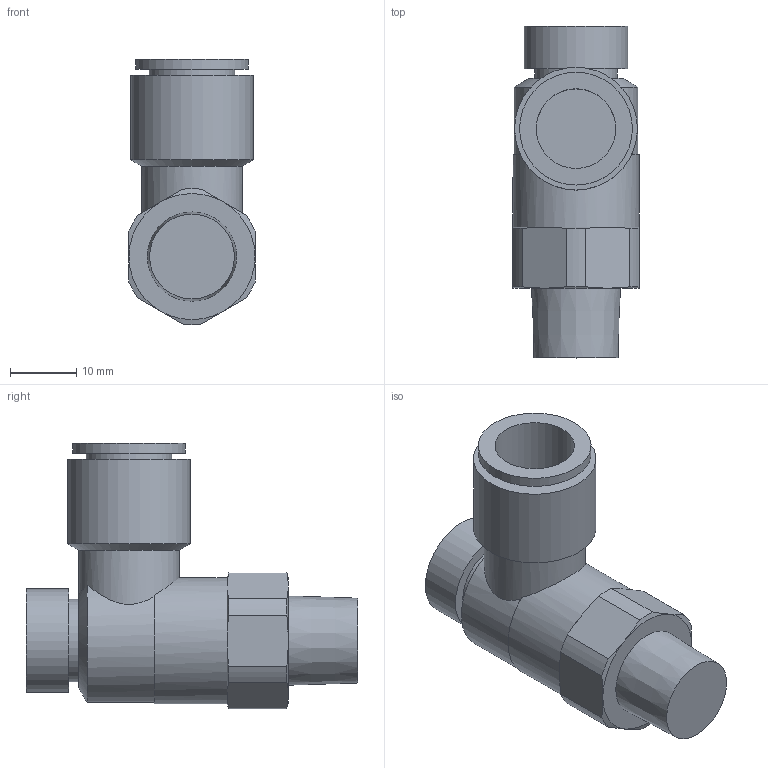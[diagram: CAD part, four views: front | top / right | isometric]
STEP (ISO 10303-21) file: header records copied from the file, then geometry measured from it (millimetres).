
FILE_DESCRIPTION(/* description */ ('STEP AP214'),/* implementation_level */ '2;1');
FILE_NAME(/* name */ 'AS3201F-02-12SA',/* time_stamp */ '2024-10-24T14:10:21+02:00',/* author */ ('License CC BY-ND 4.0'),/* organization */ ('CADENAS'),/* preprocessor_version */ 'ST-DEVELOPER v19.3',/* originating_system */ 'PARTsolutions',/* authorisation */ ' ');
FILE_SCHEMA (('AUTOMOTIVE_DESIGN {1 0 10303 214 3 1 1}'));
Length unit declared in the file: millimetre
Products named in the file (1): AS3201F-02-12SA
Bounding box: 19 x 50 x 39.94 mm (x, y, z)
Volume: 14912.3 mm3; surface area: 5529.6 mm2
Topology: 1 solids, 1 shells, 46 faces, 97 edges, 59 vertices
Faces by surface type: plane 16, cone 15, cylinder 15
Full cylindrical faces by diameter (mm): 12 x1, 12.45 x1, 12.94 x1, 15.2 x1, 15.6 x1, 17 x1, 18.5 x1, 19 x1
Entity records: 1249 total; most frequent: CARTESIAN_POINT 299, DIRECTION 194, ORIENTED_EDGE 172, AXIS2_PLACEMENT_3D 90, EDGE_CURVE 86, EDGE_LOOP 62, FACE_BOUND 62, VERTEX_POINT 58
